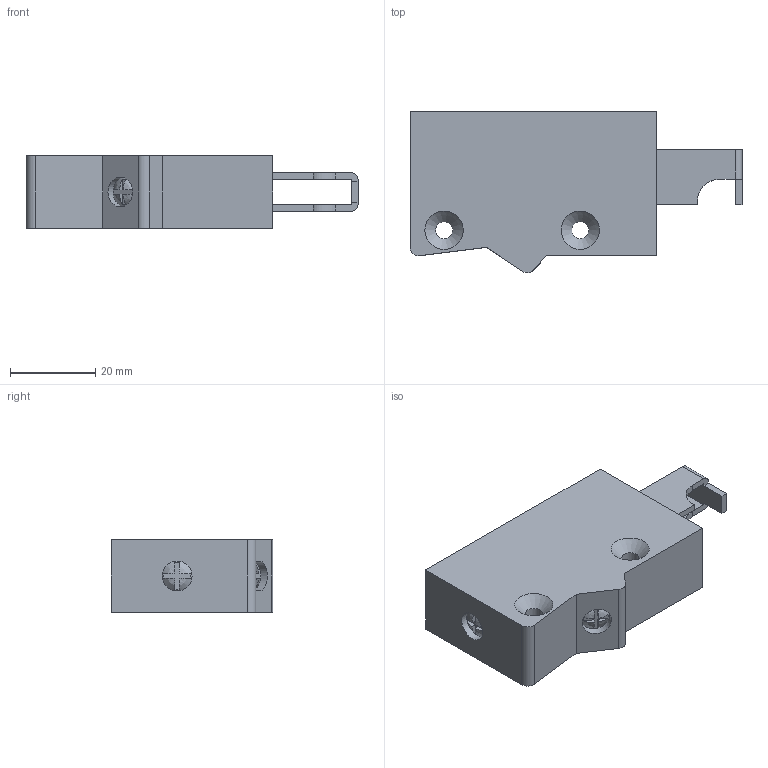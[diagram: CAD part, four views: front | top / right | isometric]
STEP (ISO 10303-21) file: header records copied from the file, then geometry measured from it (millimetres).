
FILE_DESCRIPTION(/* description */ ('Akc'),/* implementation_level */ '2;1');
FILE_NAME(/* name */ 'C:\Users\dmitruk\Documents\WORK\Навесы\Простой\Навес кухонный простой.stp',/* time_stamp */ '2022-04-25T10:29:13+03:00',/* author */ ('dmitruk'),/* organization */ (''),/* preprocessor_version */ 'ST-DEVELOPER v16.5',/* originating_system */ 'Autodesk Inventor 2017',/* authorisation */ '');
FILE_SCHEMA (('AUTOMOTIVE_DESIGN { 1 0 10303 214 3 1 1 }'));
Length unit declared in the file: millimetre
Products named in the file (1): Навес \X2\043A04430445043E043D043D
044B0439\X0\ простой
Bounding box: 77.98 x 38 x 17 mm (x, y, z)
Volume: 29976.4 mm3; surface area: 11167.2 mm2
Topology: 1 solids, 3 shells, 86 faces, 224 edges, 149 vertices
Faces by surface type: plane 66, cylinder 14, cone 4, bspline 2
Full cylindrical faces by diameter (mm): 1.6 x1, 2.4 x1, 4 x2, 7 x4
Entity records: 2709 total; most frequent: CARTESIAN_POINT 610, ORIENTED_EDGE 418, DIRECTION 413, EDGE_CURVE 209, VERTEX_POINT 146, LINE 139, VECTOR 139, AXIS2_PLACEMENT_3D 137
